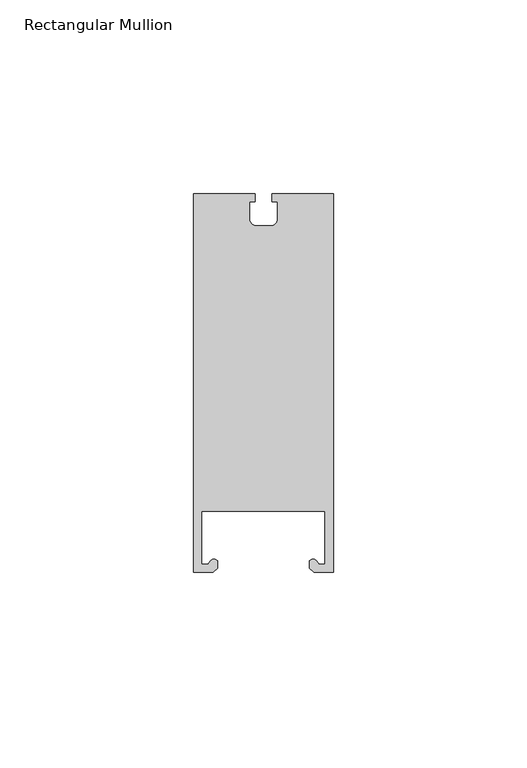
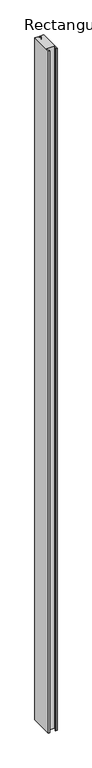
"""IFC4 building model written with IfcOpenShell, lengths in millimetres: member geometry, Rectangular Mullion : NLRS_21_CWM_drager LD.0995_Storax."""

from ifc_helpers import new_model, si_unit, point, frame, frame_2d, origin, place, context, project, spatial, polyline, circle_curve, trimmed, segment, composite_curve, outline, extrude, source, transform, mapped, element, save


def rectangular_mullion_fb497acc(model_context):
    return source(origin(), model_context, "Body", "SweptSolid", [
        extrude(outline(composite_curve([segment(polyline([(18.0, -98.5), (13.0, -98.5), (11.8999059, -97.5769114), (11.8999059, -95.561549)]), True, "CONTINUOUS"), segment(trimmed(circle_curve(frame_2d((12.7950072, -96.3498072)), 1.1927101), [point((11.8999059, -95.561549))], [point((13.6901084, -95.561549))], False, "CARTESIAN"), True, "CONTINUOUS"), segment(polyline([(13.6901084, -95.561549), (14.3252443, -96.4686169), (15.8636449, -96.4686169), (15.8636449, -82.8621189), (-16.0, -82.8621189), (-16.0, -96.4686169), (-14.3252443, -96.4686169), (-13.6901084, -95.561549)]), True, "CONTINUOUS"), segment(trimmed(circle_curve(frame_2d((-12.7950072, -96.3498072)), 1.1927101), [point((-13.6901084, -95.561549))], [point((-11.8999059, -95.561549))], False, "CARTESIAN"), True, "CONTINUOUS"), segment(polyline([(-11.8999059, -95.561549), (-11.8999059, -97.5769114), (-13.0, -98.5), (-18.0, -98.5), (-18.0, -1.0), (-2.2489445, -1.0), (-2.2489445, -3.0843142), (-3.59041, -3.0843142), (-3.59041, -7.4667227)]), True, "CONTINUOUS"), segment(trimmed(circle_curve(frame_2d((-1.8285608, -7.4667227)), 1.7618492), [point((-3.59041, -7.4667227))], [point((-2.0972447, -9.2079641))], True, "CARTESIAN"), True, "CONTINUOUS"), segment(polyline([(-2.0972447, -9.2079641), (1.559877, -9.2079641)]), True, "CONTINUOUS"), segment(trimmed(circle_curve(frame_2d((1.8285608, -7.4667227)), 1.7618492), [point((1.559877, -9.2079641))], [point((3.59041, -7.4667227))], True, "CARTESIAN"), True, "CONTINUOUS"), segment(polyline([(3.59041, -7.4667227), (3.59041, -3.0843142), (2.2489445, -3.0843142), (2.2489445, -1.0), (18.0, -1.0), (18.0, -98.5)]), True, "CONTINUOUS")], self_intersect=False)), frame((0.0, 0.0, -3000.0), z_axis=(0.0, 0.0, 1.0), x_axis=(1.0, 0.0, 0.0)), (0.0, 0.0, 1.0), 3000.0),
    ])


if __name__ == "__main__":
    model = new_model("IFC4")
    model_context = context("Model", 3, world=origin())
    ifc_project = project(units=[si_unit("LENGTHUNIT", "METRE", prefix="MILLI")], contexts=[model_context])
    site = spatial("IfcSite", under=ifc_project)
    building = spatial("IfcBuilding", under=site)
    placement = place(None, origin())
    rectangular_mullion_shape = rectangular_mullion_fb497acc(model_context)
    element("IfcMember", 1, ObjectType="Rectangular Mullion : NLRS_21_CWM_drager LD.0995_Storax", at=placement, inside=building, context=model_context, shape_type="MappedRepresentation", body=[
        mapped(rectangular_mullion_shape, transform((0.0, 0.0, 0.0), x_axis=(1.0, 0.0, 0.0), y_axis=(0.0, 1.0, 0.0), z_axis=(0.0, 0.0, 1.0))),
    ])
    save(model, "model.ifc")
